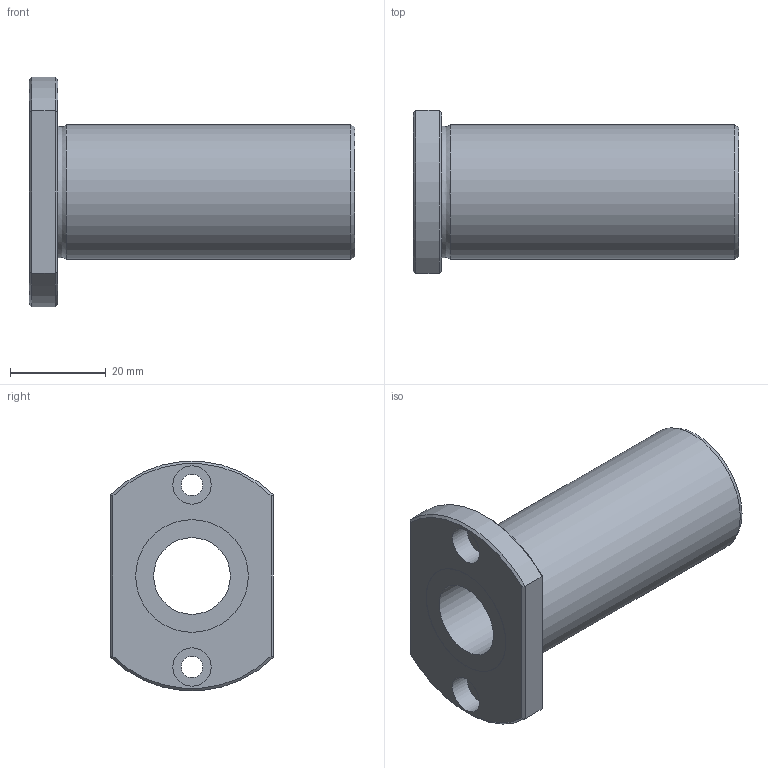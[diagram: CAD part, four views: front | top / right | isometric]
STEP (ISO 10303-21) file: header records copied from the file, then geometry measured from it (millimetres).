
FILE_DESCRIPTION((''),'2;1');
FILE_NAME('D:\製品 (図面)\カタログ用3D\リニアベアリング関連\STEP形式\LFDT\LFDT16.stp','2010-06-03T09:44:50',('Tsuchiya'),(''),'Autodesk Inventor 10','Autodesk Inventor 10','');
FILE_SCHEMA(('AUTOMOTIVE_DESIGN { 1 0 10303 214 1 1 1 1 }'));
Length unit declared in the file: millimetre
Products named in the file (1): LFDT16
Bounding box: 68 x 34 x 47.82 mm (x, y, z)
Volume: 32768.3 mm3; surface area: 12409.7 mm2
Topology: 1 solids, 1 shells, 29 faces, 56 edges, 34 vertices
Faces by surface type: plane 13, cylinder 10, cone 4, torus 1, bspline 1
Full cylindrical faces by diameter (mm): 4.5 x2, 8 x2, 16 x1, 23.5 x2, 28 x1
Entity records: 787 total; most frequent: CARTESIAN_POINT 196, DIRECTION 122, ORIENTED_EDGE 92, AXIS2_PLACEMENT_3D 55, EDGE_LOOP 50, EDGE_CURVE 46, VERTEX_POINT 34, FACE_OUTER_BOUND 29
